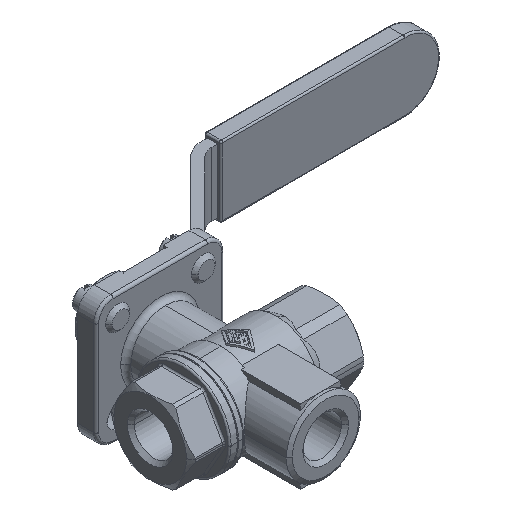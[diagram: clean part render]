
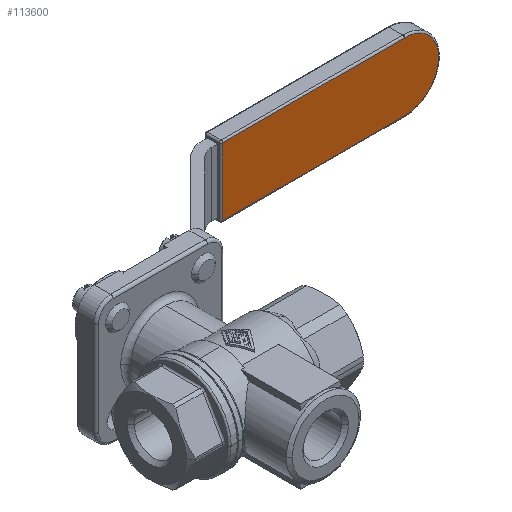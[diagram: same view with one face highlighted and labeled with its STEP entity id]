
A CAD part, isometric view. The second image highlights one B-rep face of the part: STEP entity #113600.
In plain terms, the highlighted planar face has unit normal (0, -1, 0).
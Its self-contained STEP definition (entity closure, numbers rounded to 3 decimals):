
#37430=CARTESIAN_POINT('',(-104.291,55.,-10.));
#37440=VERTEX_POINT('',#37430);
#37630=CARTESIAN_POINT('',(-104.5,55.,-10.002));
#37640=VERTEX_POINT('',#37630);
#37670=CARTESIAN_POINT('',(-104.5,55.,0.)
);
#37680=DIRECTION('',(0.,-1.,0.));
#37690=DIRECTION('',(0.,0.,-1.));
#37700=AXIS2_PLACEMENT_3D('',#37670,#37680,#37690);
#37710=CIRCLE('',#37700,10.002);
#37720=EDGE_CURVE('',#37640,#37440,#37710,.T.);
#86290=CARTESIAN_POINT('',(0.,55.,-10.));
#86300=DIRECTION('',(1.,0.,0.));
#86310=VECTOR('',#86300,1.);
#86320=LINE('',#86290,#86310);
#86330=CARTESIAN_POINT('',(-50.5,55.,-10.));
#86340=VERTEX_POINT('',#86330);
#86350=EDGE_CURVE('',#37440,#86340,#86320,.T.);
#101920=CARTESIAN_POINT('',(-50.5,55.,10.));
#101930=VERTEX_POINT('',#101920);
#105520=CARTESIAN_POINT('',(-50.5,55.,0.));
#105530=DIRECTION('',(0.,0.,1.));
#105540=VECTOR('',#105530,1.);
#105550=LINE('',#105520,#105540);
#105560=EDGE_CURVE('',#86340,#101930,#105550,.T.);
#113400=CARTESIAN_POINT('',(-114.,55.,0.));
#113410=DIRECTION('',(0.,-1.,0.));
#113420=DIRECTION('',(1.,0.,0.));
#113430=AXIS2_PLACEMENT_3D('',#113400,#113410,#113420);
#113440=PLANE('',#113430);
#113450=ORIENTED_EDGE('',*,*,#86350,.T.);
#113460=ORIENTED_EDGE('',*,*,#37720,.T.);
#113470=CARTESIAN_POINT('',(-104.709,55.,10.));
#113480=VERTEX_POINT('',#113470);
#113490=EDGE_CURVE('',#113480,#37640,#37710,.T.);
#113500=ORIENTED_EDGE('',*,*,#113490,.T.);
#113510=CARTESIAN_POINT('',(0.,55.,10.));
#113520=DIRECTION('',(-1.,0.,0.));
#113530=VECTOR('',#113520,1.);
#113540=LINE('',#113510,#113530);
#113550=EDGE_CURVE('',#101930,#113480,#113540,.T.);
#113560=ORIENTED_EDGE('',*,*,#113550,.T.);
#113570=ORIENTED_EDGE('',*,*,#105560,.T.);
#113580=EDGE_LOOP('',(#113570,#113560,#113500,#113460,#113450));
#113590=FACE_OUTER_BOUND('',#113580,.T.);
#113600=ADVANCED_FACE('',(#113590),#113440,.T.);
